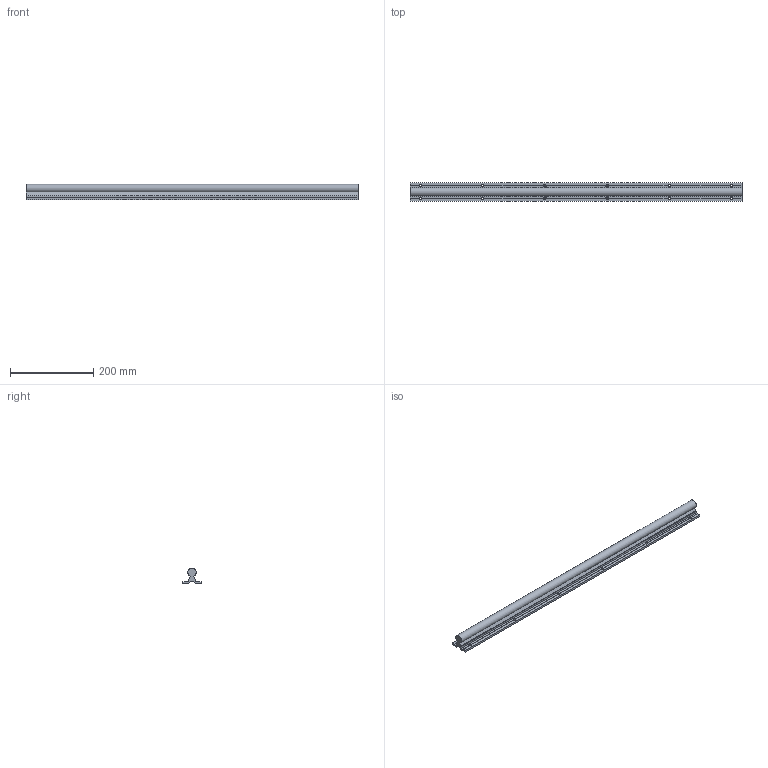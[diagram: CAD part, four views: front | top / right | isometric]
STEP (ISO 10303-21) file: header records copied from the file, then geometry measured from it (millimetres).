
FILE_DESCRIPTION(/* description */ (''),/* implementation_level */ '2;1');
FILE_NAME(/* name */ 'C:\Users\David\Desktop\stepFiles\Profilfuehrung\LFS20x800.stp',/* time_stamp */ '2018-06-24T15:21:56+02:00',/* author */ ('Buskamp'),/* organization */ (''),/* preprocessor_version */ 'ST-DEVELOPER v17',/* originating_system */ 'Autodesk Inventor 2019',/* authorisation */ '');
FILE_SCHEMA (('AUTOMOTIVE_DESIGN { 1 0 10303 214 3 1 1 }'));
Length unit declared in the file: millimetre
Products named in the file (1): Linearführung D20xvariabel
Bounding box: 800 x 45 x 37 mm (x, y, z)
Volume: 516726.5 mm3; surface area: 142574.2 mm2
Topology: 1 solids, 1 shells, 90 faces, 280 edges, 180 vertices
Faces by surface type: plane 61, cone 16, cylinder 13
Full cylindrical faces by diameter (mm): 5.5 x12
Entity records: 3181 total; most frequent: CARTESIAN_POINT 615, ORIENTED_EDGE 560, DIRECTION 532, EDGE_CURVE 280, AXIS2_PLACEMENT_3D 193, VERTEX_POINT 180, LINE 146, VECTOR 146
